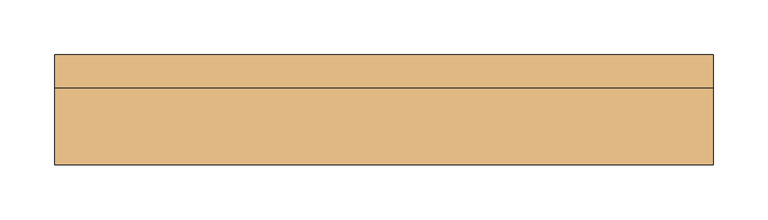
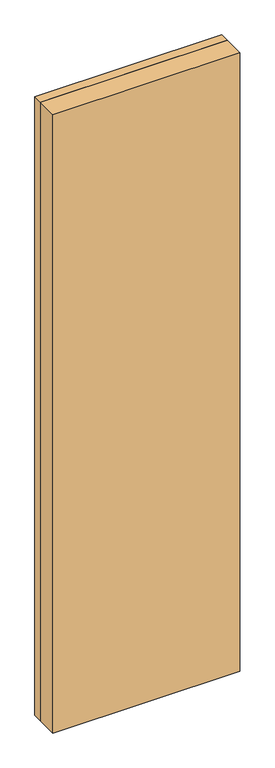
"""IFC4 building model written with IfcOpenShell, lengths in millimetres: door geometry, (Dr)_ДУ(распашная)_1Ст_Прямоугольная : (Вн)_ДГ(0.6х2.1(h)) с/у."""

from ifc_helpers import new_model, si_unit, frame, origin, origin_with_axes, place, context, project, spatial, polyline, outline, extrude, source, transform, mapped, element, save


def door_2df90ca5(model_context):
    return source(origin(), model_context, "Body", "SweptSolid", [
        extrude(outline(polyline([(-270.0, 15.0), (270.0, 15.0), (270.0, -15.0), (-270.0, -15.0), (-270.0, 15.0)])), origin_with_axes(), (0.0, 0.0, 1.0), 2070.0),
        extrude(outline(polyline([(0.0, -300.0), (0.0, -270.0), (2070.0, -270.0), (2070.0, 270.0), (0.0, 270.0), (0.0, 300.0), (2100.0, 300.0), (2100.0, -300.0), (0.0, -300.0)])), frame((0.0, -15.0, 0.0), z_axis=(0.0, 1.0, 0.0), x_axis=(0.0, 0.0, 1.0)), (0.0, 0.0, 1.0), 30.0),
        extrude(outline(polyline([(300.0, -85.0), (-300.0, -85.0), (-300.0, -15.0), (300.0, -15.0), (300.0, -85.0)])), origin_with_axes(), (0.0, 0.0, 1.0), 2100.0),
    ])


if __name__ == "__main__":
    model = new_model("IFC4")
    model_context = context("Model", 3, world=origin())
    ifc_project = project(units=[si_unit("LENGTHUNIT", "METRE", prefix="MILLI")], contexts=[model_context])
    site = spatial("IfcSite", under=ifc_project)
    building = spatial("IfcBuilding", under=site)
    placement = place(None, origin())
    door_shape = door_2df90ca5(model_context)
    element("IfcDoor", 1, ObjectType="(Dr)_ДУ(распашная)_1Ст_Прямоугольная : (Вн)_ДГ(0.6х2.1(h)) с/у", at=placement, inside=building, context=model_context, shape_type="MappedRepresentation", body=[
        mapped(door_shape, transform((0.0, 0.0, 0.0), x_axis=(1.0, 0.0, 0.0), y_axis=(0.0, 1.0, 0.0), z_axis=(0.0, 0.0, 1.0))),
    ])
    save(model, "model.ifc")
